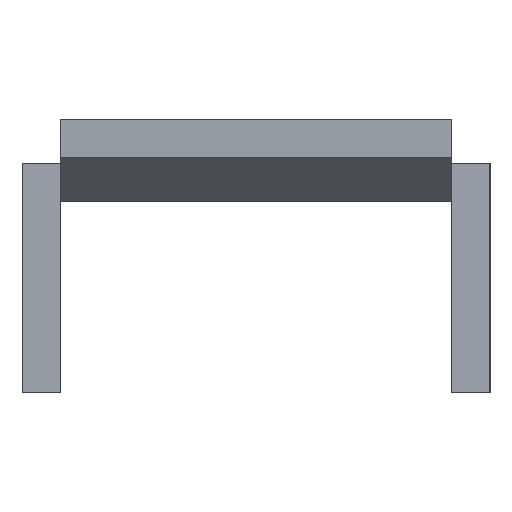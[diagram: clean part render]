
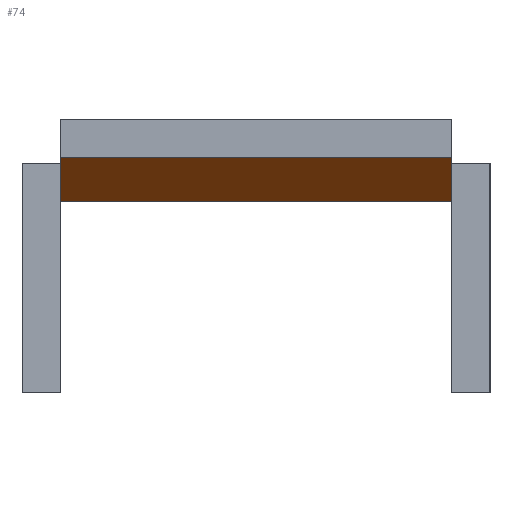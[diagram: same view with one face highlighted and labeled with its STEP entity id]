
A CAD part, left-side view. The second image highlights one B-rep face of the part: STEP entity #74.
In plain terms, the highlighted planar face has unit normal (-0.5, 0, -0.866).
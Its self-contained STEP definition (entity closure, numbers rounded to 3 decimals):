
#74 = ADVANCED_FACE( '', ( #155 ), #156, .F. );
#155 = FACE_OUTER_BOUND( '', #240, .T. );
#156 = PLANE( '', #241 );
#240 = EDGE_LOOP( '', ( #388, #389, #390, #391 ) );
#241 = AXIS2_PLACEMENT_3D( '', #392, #393, #394 );
#388 = ORIENTED_EDGE( '', *, *, #580, .T. );
#389 = ORIENTED_EDGE( '', *, *, #549, .F. );
#390 = ORIENTED_EDGE( '', *, *, #558, .F. );
#391 = ORIENTED_EDGE( '', *, *, #540, .T. );
#392 = CARTESIAN_POINT( '', ( -253.537, 10.25, -2.309 ) );
#393 = DIRECTION( '', ( 0.5, 0., 0.866 ) );
#394 = DIRECTION( '', ( 0.866, 0., -0.5 ) );
#540 = EDGE_CURVE( '', #648, #646, #649, .T. );
#549 = EDGE_CURVE( '', #663, #658, #665, .T. );
#558 = EDGE_CURVE( '', #648, #663, #680, .T. );
#580 = EDGE_CURVE( '', #646, #658, #709, .T. );
#646 = VERTEX_POINT( '', #797 );
#648 = VERTEX_POINT( '', #800 );
#649 = LINE( '', #801, #802 );
#658 = VERTEX_POINT( '', #815 );
#663 = VERTEX_POINT( '', #822 );
#665 = LINE( '', #825, #826 );
#680 = LINE( '', #847, #848 );
#709 = LINE( '', #892, #893 );
#797 = CARTESIAN_POINT( '', ( -253.537, -10.25, -2.309 ) );
#800 = CARTESIAN_POINT( '', ( -253.537, 10.25, -2.309 ) );
#801 = CARTESIAN_POINT( '', ( -253.537, 10.25, -2.309 ) );
#802 = VECTOR( '', #974, 1000. );
#815 = CARTESIAN_POINT( '', ( -257.536, -10.25, 0. ) );
#822 = CARTESIAN_POINT( '', ( -257.536, 10.25, 0. ) );
#825 = CARTESIAN_POINT( '', ( -257.536, 10.25, 0. ) );
#826 = VECTOR( '', #982, 1000. );
#847 = CARTESIAN_POINT( '', ( -253.537, 10.25, -2.309 ) );
#848 = VECTOR( '', #989, 1000. );
#892 = CARTESIAN_POINT( '', ( -253.537, -10.25, -2.309 ) );
#893 = VECTOR( '', #1005, 1000. );
#974 = DIRECTION( '', ( 0., -1., 0. ) );
#982 = DIRECTION( '', ( 0., -1., 0. ) );
#989 = DIRECTION( '', ( -0.866, 0., 0.5 ) );
#1005 = DIRECTION( '', ( -0.866, 0., 0.5 ) );
